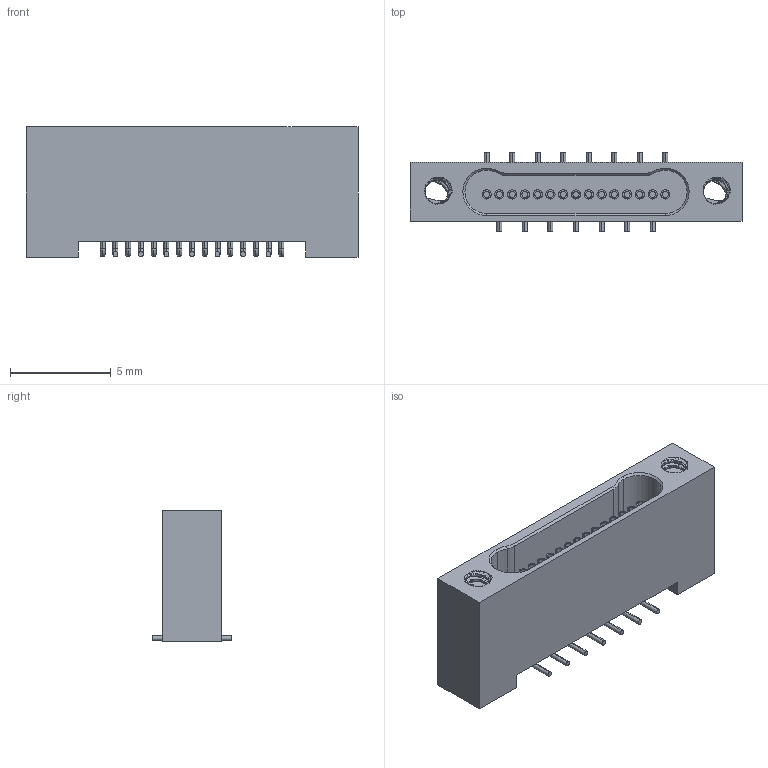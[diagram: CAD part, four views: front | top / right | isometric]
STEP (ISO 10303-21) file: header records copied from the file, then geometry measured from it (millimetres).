
FILE_DESCRIPTION (( 'STEP AP214' ), '1' );
FILE_NAME ('A55200-015 REV E.STEP', '2019-07-08T14:24:24', ( '' ), ( '' ), 'SwSTEP 2.0', 'SolidWorks 2019', '' );
FILE_SCHEMA (( 'AUTOMOTIVE_DESIGN' ));
Length unit declared in the file: inch
Products named in the file (1): A55200-015 REV E
Bounding box: 16.51 x 3.94 x 6.48 mm (x, y, z)
Volume: 214.8 mm3; surface area: 582 mm2
Topology: 1 solids, 1 shells, 470 faces, 1159 edges, 750 vertices
Faces by surface type: cylinder 212, plane 168, bspline 54, torus 30, cone 6
Entity records: 30432 total; most frequent: CARTESIAN_POINT 13954, ORIENTED_EDGE 2318, DIRECTION 2009, EDGE_CURVE 1159, VERTEX_POINT 750, AXIS2_PLACEMENT_3D 713, VECTOR 583, LINE 583
